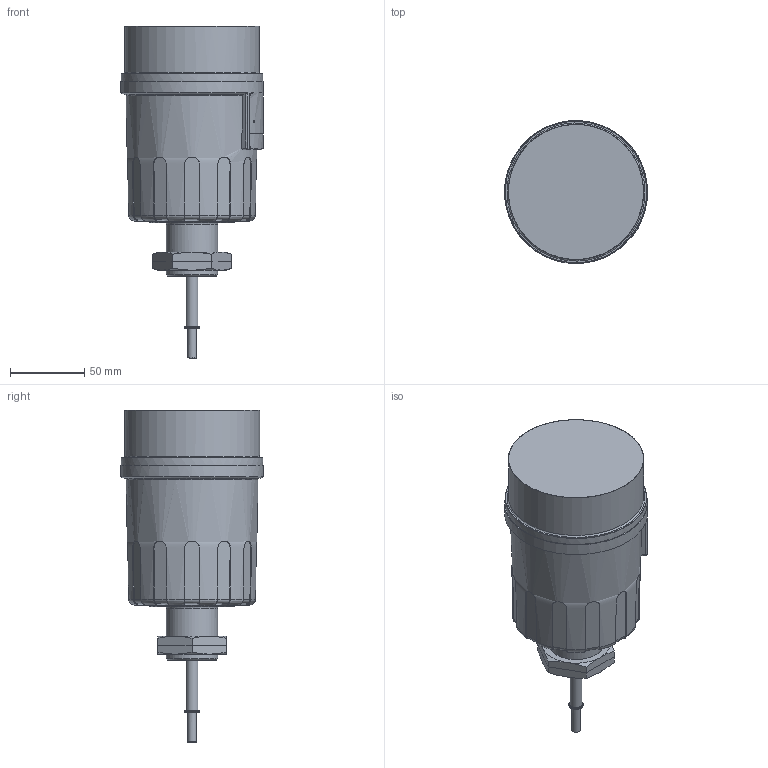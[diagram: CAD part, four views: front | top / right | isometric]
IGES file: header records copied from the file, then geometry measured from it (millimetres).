
Global section: file name: SP_360; native system: Autodesk Inventor 2015; preprocessor: unknown; author: aantal; date: 20150623.094544; units: millimetre
Bounding box: 96 x 95.9 x 223 mm (x, y, z)
Volume: 853651.5 mm3; surface area: 83200.8 mm2
Topology: 5 solids, 5 shells, 290 faces, 764 edges, 504 vertices
Faces by surface type: bspline 290
